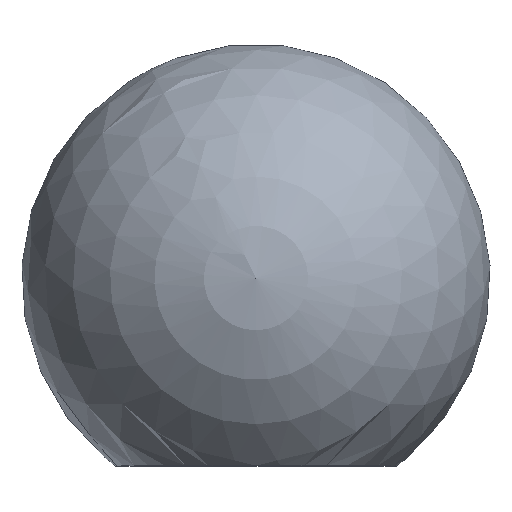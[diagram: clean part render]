
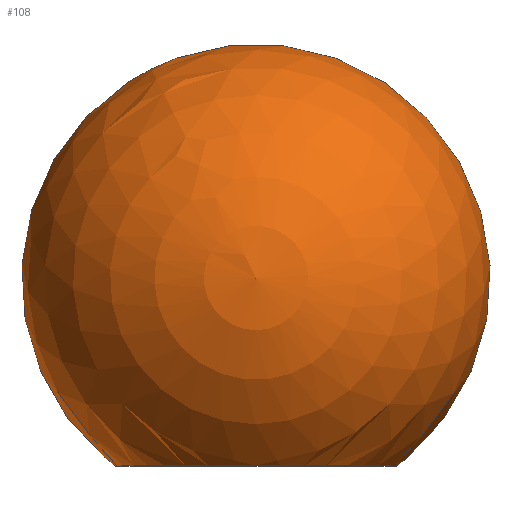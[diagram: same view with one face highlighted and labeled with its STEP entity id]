
A CAD part, top view. The second image highlights one B-rep face of the part: STEP entity #108.
In plain terms, the highlighted spherical face has radius 10 mm.
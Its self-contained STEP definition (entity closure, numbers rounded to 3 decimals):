
#2 = VERTEX_POINT ( 'NONE', #53 ) ;
#21 = DIRECTION ( 'NONE',  ( 0., 0., 1. ) ) ;
#43 = ORIENTED_EDGE ( 'NONE', *, *, #92, .F. ) ;
#48 = DIRECTION ( 'NONE',  ( 0., 0., -1. ) ) ;
#53 = CARTESIAN_POINT ( 'NONE',  ( 0., 0., -6. ) ) ;
#66 = AXIS2_PLACEMENT_3D ( 'NONE', #110, #171, #48 ) ;
#73 = DIRECTION ( 'NONE',  ( 1., 0., 0. ) ) ;
#87 = SPHERICAL_SURFACE ( 'NONE', #169, 10. ) ;
#92 = EDGE_CURVE ( 'NONE', #2, #2, #144, .T. ) ;
#98 = FACE_OUTER_BOUND ( 'NONE', #121, .T. ) ;
#108 = ADVANCED_FACE ( 'NONE', ( #98 ), #87, .T. ) ;
#110 = CARTESIAN_POINT ( 'NONE',  ( 0., 0., 0. ) ) ;
#121 = EDGE_LOOP ( 'NONE', ( #43 ) ) ;
#142 = CARTESIAN_POINT ( 'NONE',  ( 0., 8., 0. ) ) ;
#144 = CIRCLE ( 'NONE', #66, 6. ) ;
#169 = AXIS2_PLACEMENT_3D ( 'NONE', #142, #21, #73 ) ;
#171 = DIRECTION ( 'NONE',  ( 0., -1., 0. ) ) ;
